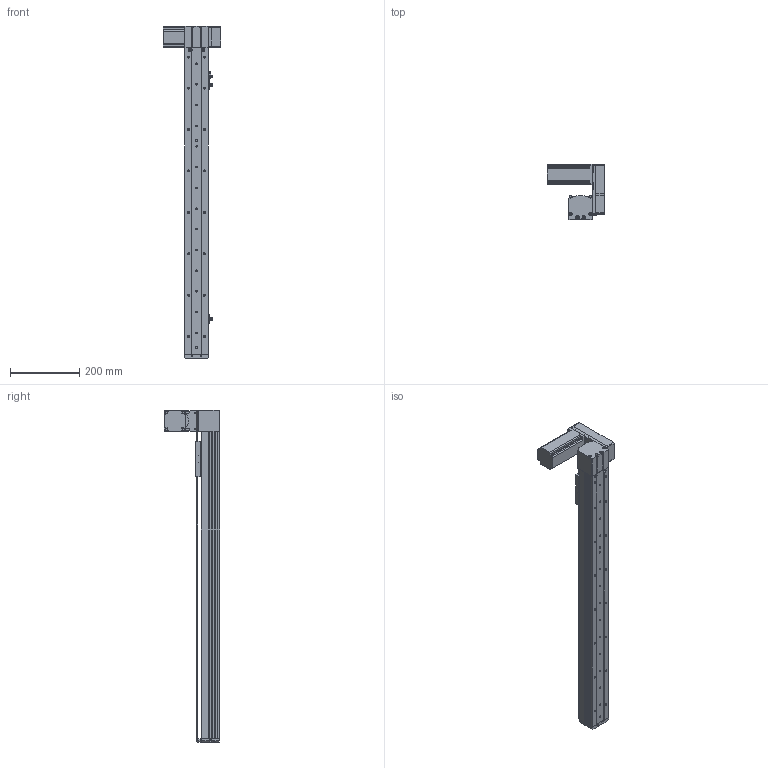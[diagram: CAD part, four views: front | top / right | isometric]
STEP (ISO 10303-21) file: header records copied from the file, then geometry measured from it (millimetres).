
FILE_DESCRIPTION (( 'STEP AP214' ), '1' );
FILE_NAME ('KSD68BS-S700-MLU-CM.STEP', '2019-08-22T02:35:12', ( '微软用户' ), ( '微软中国' ), 'SwSTEP 2.0', 'SolidWorks 2014', '' );
FILE_SCHEMA (( 'AUTOMOTIVE_DESIGN' ));
Length unit declared in the file: millimetre
Products named in the file (12): 悵誘欶奻狟殏; HTPA30S3M150_A_H6_a佪裝蚚8; 68宽马达安装板连板上折同步带; 68宽单导轨半封闭同步带主动轮座左; 68单导轨同步带半封闭端板; KSD68BS 700俴最裔啣圉猾敕; 覜茼え68遵圉猾敕; KSD68BS半封闭同步带传动导轨座; U倰嫖萇EEㄜSX672; 台达ECMA－C20604AS伺服电机（400W); KSD68BS 700俴最菁啣圉猾敕; KSD68BS-S700-MLU-CM
Assembly tree (13 placements, depth 2):
  KSD68BS-S700-MLU-CM
    KSD68BS 700俴最菁啣圉猾敕
    台达ECMA－C20604AS伺服电机（400W)
    U倰嫖萇EEㄜSX672  x3
    KSD68BS半封闭同步带传动导轨座
    覜茼え68遵圉猾敕
    KSD68BS 700俴最裔啣圉猾敕
    68单导轨同步带半封闭端板
    68宽单导轨半封闭同步带主动轮座左
    68宽马达安装板连板上折同步带
    HTPA30S3M150_A_H6_a佪裝蚚8
    悵誘欶奻狟殏
Bounding box: 167.2 x 159.5 x 962 mm (x, y, z)
Volume: 2002762 mm3; surface area: 680231 mm2
Topology: 14 solids, 14 shells, 1652 faces, 4750 edges, 3098 vertices
Faces by surface type: cylinder 950, plane 607, cone 95
Entity records: 59546 total; most frequent: CARTESIAN_POINT 11229, DIRECTION 8436, ORIENTED_EDGE 8252, EDGE_CURVE 4126, AXIS2_PLACEMENT_3D 3157, VERTEX_POINT 2722, VECTOR 2122, LINE 2122
